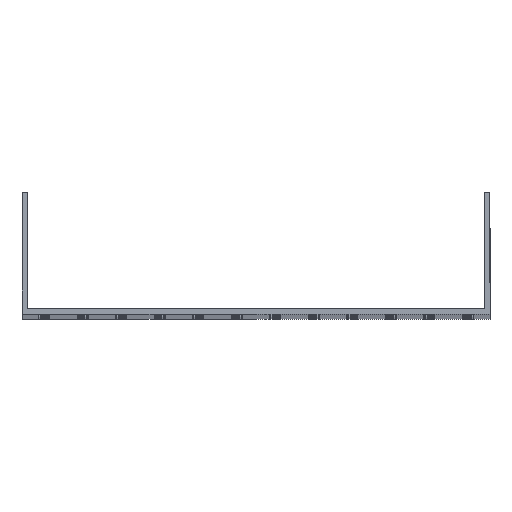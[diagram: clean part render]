
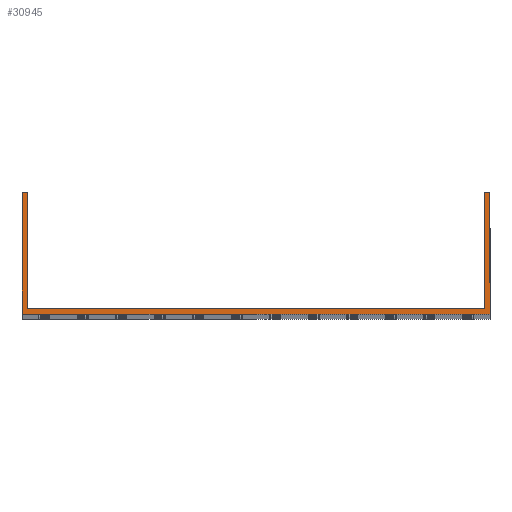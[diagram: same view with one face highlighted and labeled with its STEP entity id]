
A CAD part, top view. The second image highlights one B-rep face of the part: STEP entity #30945.
In plain terms, the highlighted planar face has unit normal (0, 0, 1).
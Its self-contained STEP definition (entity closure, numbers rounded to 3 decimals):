
#1076 = LINE ( 'NONE', #56107, #91827 ) ;
#2340 = EDGE_CURVE ( 'NONE', #77405, #64810, #5291, .T. ) ;
#5291 = LINE ( 'NONE', #37580, #89631 ) ;
#6115 = VERTEX_POINT ( 'NONE', #95556 ) ;
#6506 = CARTESIAN_POINT ( 'NONE',  ( -148.5, 3.5, 1000. ) ) ;
#6854 = ORIENTED_EDGE ( 'NONE', *, *, #22788, .F. ) ;
#11962 = VERTEX_POINT ( 'NONE', #18742 ) ;
#12625 = CARTESIAN_POINT ( 'NONE',  ( 148.5, 79., 1000. ) ) ;
#12832 = CARTESIAN_POINT ( 'NONE',  ( -148.5, 79., 1000. ) ) ;
#17273 = CARTESIAN_POINT ( 'NONE',  ( -152., 79., 1000. ) ) ;
#17949 = DIRECTION ( 'NONE',  ( 1., 0., 0. ) ) ;
#18742 = CARTESIAN_POINT ( 'NONE',  ( 152., 0., 1000. ) ) ;
#18975 = CARTESIAN_POINT ( 'NONE',  ( -152., 0., 1000. ) ) ;
#20786 = LINE ( 'NONE', #53057, #67754 ) ;
#21009 = VECTOR ( 'NONE', #27690, 1000. ) ;
#22146 = CARTESIAN_POINT ( 'NONE',  ( 0., 0., 1000. ) ) ;
#22382 = CARTESIAN_POINT ( 'NONE',  ( -152., 79., 1000. ) ) ;
#22461 = AXIS2_PLACEMENT_3D ( 'NONE', #22146, #30604, #71851 ) ;
#22788 = EDGE_CURVE ( 'NONE', #65410, #98043, #81363, .T. ) ;
#23896 = VERTEX_POINT ( 'NONE', #65885 ) ;
#27690 = DIRECTION ( 'NONE',  ( -1., 0., 0. ) ) ;
#28529 = DIRECTION ( 'NONE',  ( 0., 1., 0. ) ) ;
#29267 = LINE ( 'NONE', #62078, #21009 ) ;
#29884 = EDGE_CURVE ( 'NONE', #11962, #6115, #44363, .T. ) ;
#30604 = DIRECTION ( 'NONE',  ( 0., 0., 1. ) ) ;
#30945 = ADVANCED_FACE ( 'NONE', ( #38042 ), #70818, .T. ) ;
#31620 = ORIENTED_EDGE ( 'NONE', *, *, #62606, .F. ) ;
#32230 = ORIENTED_EDGE ( 'NONE', *, *, #2340, .T. ) ;
#32815 = DIRECTION ( 'NONE',  ( 0., 1., 0. ) ) ;
#37580 = CARTESIAN_POINT ( 'NONE',  ( -152., 79., 1000. ) ) ;
#38042 = FACE_OUTER_BOUND ( 'NONE', #42227, .T. ) ;
#40111 = EDGE_CURVE ( 'NONE', #64810, #23896, #71044, .T. ) ;
#42227 = EDGE_LOOP ( 'NONE', ( #31620, #32230, #92618, #65549, #43676, #76449, #86660, #6854 ) ) ;
#42706 = CARTESIAN_POINT ( 'NONE',  ( -152., 3.5, 1000. ) ) ;
#43676 = ORIENTED_EDGE ( 'NONE', *, *, #29884, .T. ) ;
#44363 = LINE ( 'NONE', #101005, #64748 ) ;
#46645 = EDGE_CURVE ( 'NONE', #98043, #53420, #1076, .T. ) ;
#46728 = DIRECTION ( 'NONE',  ( 0., -1., 0. ) ) ;
#53057 = CARTESIAN_POINT ( 'NONE',  ( -148.5, 79., 1000. ) ) ;
#53420 = VERTEX_POINT ( 'NONE', #12625 ) ;
#55948 = VECTOR ( 'NONE', #17949, 1000. ) ;
#56107 = CARTESIAN_POINT ( 'NONE',  ( 148.5, 79., 1000. ) ) ;
#57614 = LINE ( 'NONE', #18975, #55948 ) ;
#62078 = CARTESIAN_POINT ( 'NONE',  ( -152., 79., 1000. ) ) ;
#62606 = EDGE_CURVE ( 'NONE', #77405, #65410, #20786, .T. ) ;
#64425 = EDGE_CURVE ( 'NONE', #23896, #11962, #57614, .T. ) ;
#64452 = DIRECTION ( 'NONE',  ( 1., 0., 0. ) ) ;
#64748 = VECTOR ( 'NONE', #28529, 1000. ) ;
#64810 = VERTEX_POINT ( 'NONE', #17273 ) ;
#65410 = VERTEX_POINT ( 'NONE', #6506 ) ;
#65549 = ORIENTED_EDGE ( 'NONE', *, *, #64425, .T. ) ;
#65885 = CARTESIAN_POINT ( 'NONE',  ( -152., 0., 1000. ) ) ;
#67754 = VECTOR ( 'NONE', #85344, 1000. ) ;
#69855 = DIRECTION ( 'NONE',  ( -1., 0., 0. ) ) ;
#70818 = PLANE ( 'NONE',  #22461 ) ;
#71044 = LINE ( 'NONE', #22382, #87865 ) ;
#71851 = DIRECTION ( 'NONE',  ( 1., 0., 0. ) ) ;
#76449 = ORIENTED_EDGE ( 'NONE', *, *, #87728, .T. ) ;
#77321 = VECTOR ( 'NONE', #64452, 1000. ) ;
#77405 = VERTEX_POINT ( 'NONE', #12832 ) ;
#81363 = LINE ( 'NONE', #42706, #77321 ) ;
#84093 = CARTESIAN_POINT ( 'NONE',  ( 148.5, 3.5, 1000. ) ) ;
#85344 = DIRECTION ( 'NONE',  ( 0., -1., 0. ) ) ;
#86660 = ORIENTED_EDGE ( 'NONE', *, *, #46645, .F. ) ;
#87728 = EDGE_CURVE ( 'NONE', #6115, #53420, #29267, .T. ) ;
#87865 = VECTOR ( 'NONE', #46728, 1000. ) ;
#89631 = VECTOR ( 'NONE', #69855, 1000. ) ;
#91827 = VECTOR ( 'NONE', #32815, 1000. ) ;
#92618 = ORIENTED_EDGE ( 'NONE', *, *, #40111, .T. ) ;
#95556 = CARTESIAN_POINT ( 'NONE',  ( 152., 79., 1000. ) ) ;
#98043 = VERTEX_POINT ( 'NONE', #84093 ) ;
#101005 = CARTESIAN_POINT ( 'NONE',  ( 152., 79., 1000. ) ) ;
